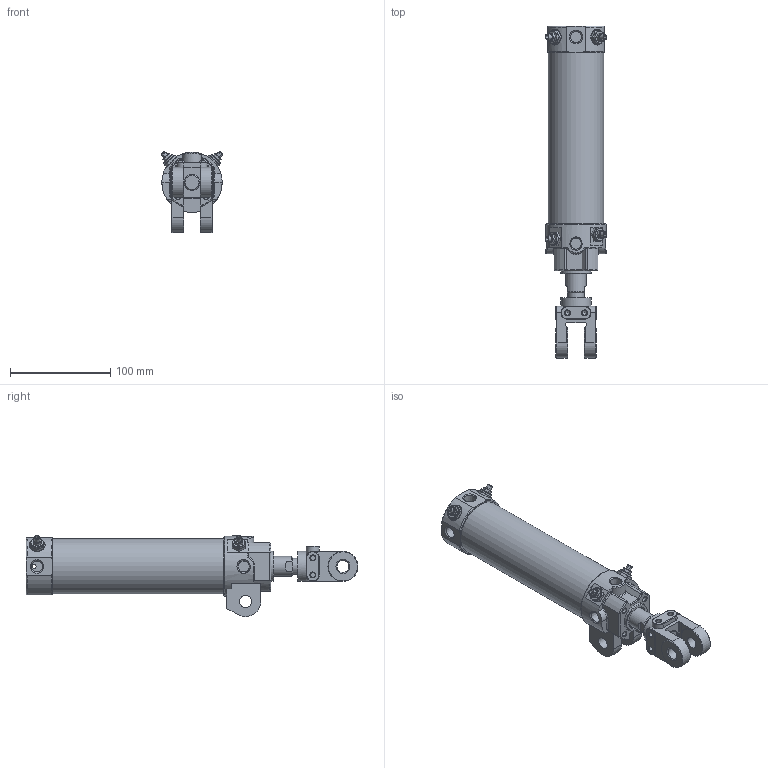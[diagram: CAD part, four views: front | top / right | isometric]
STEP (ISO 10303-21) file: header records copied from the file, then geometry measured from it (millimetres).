
FILE_DESCRIPTION((''),'2;1');
FILE_NAME('I:\3D電子目錄\氣缸\DCK\DCK\DCK-1A-50x125-Y.stp','2008-02-26T14:47:29',('Administrator'),(''),'Autodesk Inventor 11','Autodesk Inventor 11','');
FILE_SCHEMA(('AUTOMOTIVE_DESIGN { 1 0 10303 214 1 1 1 1 }'));
Length unit declared in the file: millimetre
Products named in the file (6): DCK-1A-50-Y; 緩衝針; 緩衝針-1; 緩衝針-201; 緩衝針-3
Assembly tree (8 placements, depth 3):
  DCK-1A-50-Y
    DCK-1A-50-Y
    緩衝針  x4
      緩衝針-1
      緩衝針-201
      緩衝針-3
Bounding box: 61.76 x 331 x 80.87 mm (x, y, z)
Volume: 290863.8 mm3; surface area: 129213.1 mm2
Topology: 15 solids, 15 shells, 649 faces, 1461 edges, 910 vertices
Faces by surface type: plane 240, cylinder 188, cone 145, bspline 40, torus 36
Full cylindrical faces by diameter (mm): 2 x2, 3 x4, 3.8 x2, 4 x6, 4.6 x4, 4.917 x2, 5 x8, 5.1 x4, 5.2 x12, 5.5 x4, 7.25 x1, 7.9 x4, 8 x2, 10.3 x1, 11.3 x1, 12 x6, 12.8 x4, 16 x3, 20 x1, 21 x1, 22 x2, 23 x1, 24.7 x1, 26 x1, 27 x1, 28 x1, 29 x1, 30 x4, 33 x1, 49.5 x1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
Entity records: 14035 total; most frequent: CARTESIAN_POINT 5596, DIRECTION 1733, ORIENTED_EDGE 1524, EDGE_CURVE 762, AXIS2_PLACEMENT_3D 745, EDGE_LOOP 614, VERTEX_POINT 550, FACE_OUTER_BOUND 400
